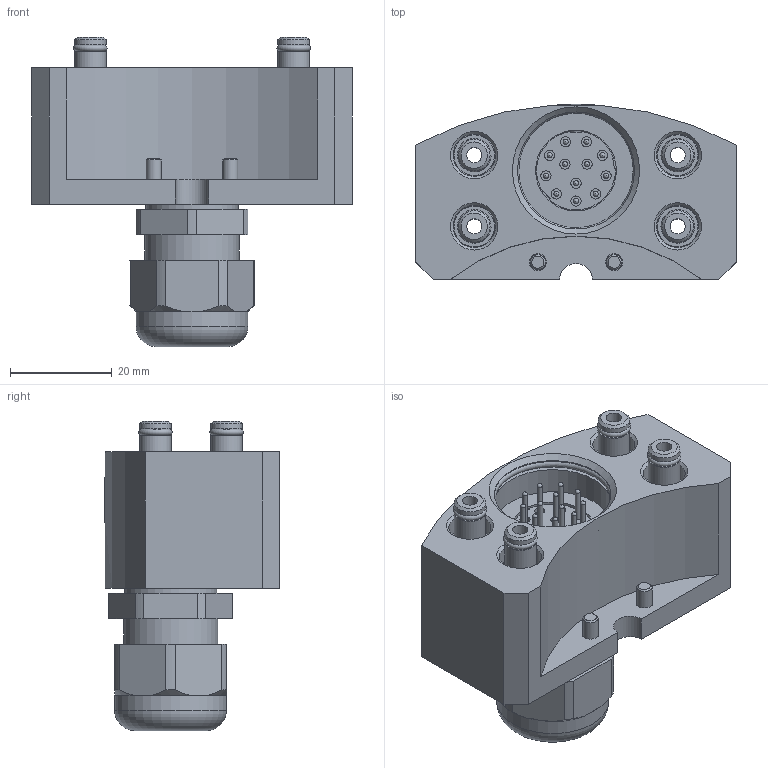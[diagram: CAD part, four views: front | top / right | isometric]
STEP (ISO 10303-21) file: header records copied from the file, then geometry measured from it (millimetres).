
FILE_DESCRIPTION(/* description */ (''),/* implementation_level */ '2;1');
FILE_NAME(/* name */ '\\dc01\daten\CAD\Standard\Daten\3D-Datenbank\Webseite 2020\MGW\MGW080\G-MEK080-O-4Pk4-1E12.stp',/* time_stamp */ '2020-05-12T13:07:35+02:00',/* author */ ('ysplieth'),/* organization */ (''),/* preprocessor_version */ 'ST-DEVELOPER v17',/* originating_system */ 'Autodesk Inventor 2018',/* authorisation */ '');
FILE_SCHEMA (('AUTOMOTIVE_DESIGN { 1 0 10303 214 3 1 1 }'));
Length unit declared in the file: millimetre
Products named in the file (1): G-MEK080-O-4Pk4-1E12
Bounding box: 63 x 34.4 x 60.8 mm (x, y, z)
Volume: 46296.2 mm3; surface area: 24374.5 mm2
Topology: 16 solids, 16 shells, 403 faces, 1076 edges, 749 vertices
Faces by surface type: plane 167, cylinder 156, cone 57, sphere 12, torus 11
Full cylindrical faces by diameter (mm): 1 x12, 1.6 x12, 2 x26, 2.013 x2, 3 x6, 3.3 x2, 4 x4, 4.2 x8, 4.8 x4, 5.5 x6, 5.9 x4, 6 x6, 6.2 x8, 8 x4, 8.3 x4, 9 x4, 10 x1, 14 x1, 15.9 x1, 17.1 x1, 18.1 x1, 18.5 x1, 22 x1, 23 x2, 25.5 x1
Entity records: 14005 total; most frequent: CARTESIAN_POINT 2934, DIRECTION 2372, ORIENTED_EDGE 2096, EDGE_CURVE 1048, AXIS2_PLACEMENT_3D 974, VERTEX_POINT 749, CIRCLE 570, EDGE_LOOP 513
